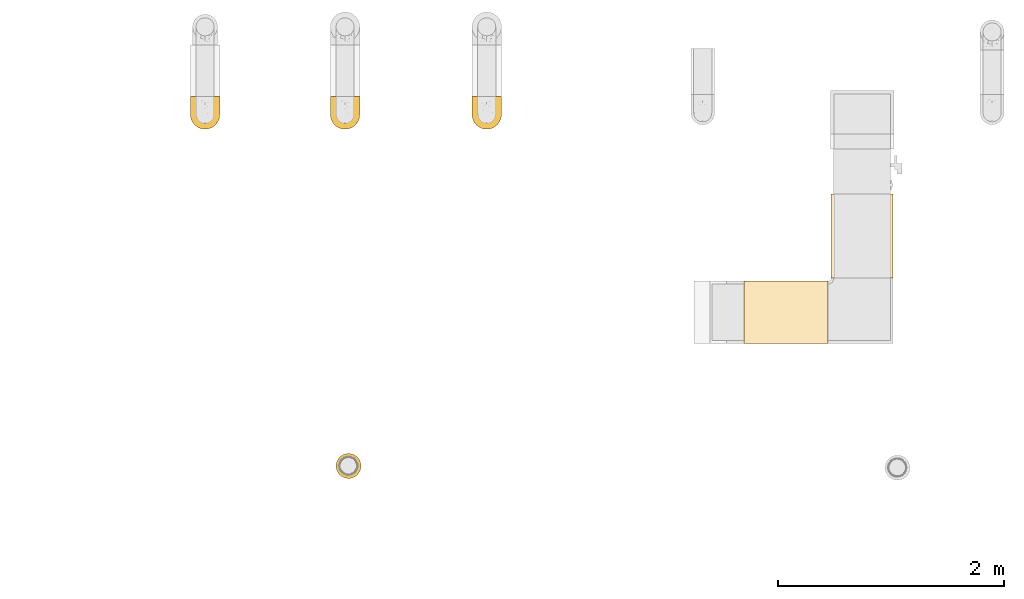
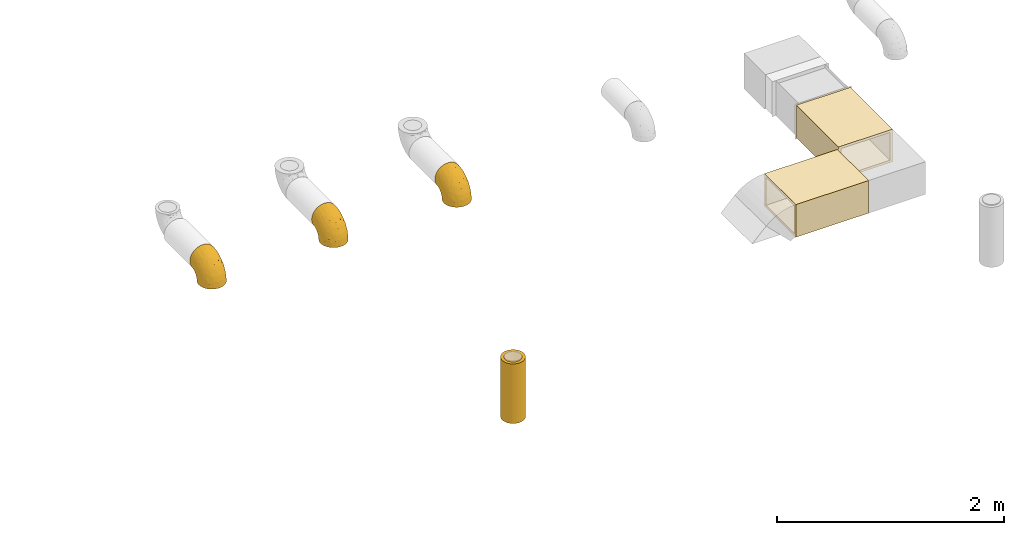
# One storey, part 1 of 14: 6 coverings.
"""IFC2X3 building model written with IfcOpenShell, lengths in millimetres."""

from ifc_helpers import new_model, entity, si_unit, converted_unit, derived_unit, direction, frame, origin_with_axes, origin_2d_with_axis, place, context, subcontext, project, spatial, hollow_rectangle, hollow_circle, extrude, open_shell, surface_model, source, transform, mapped, element, save


model = new_model("IFC2X3")

# Units and contexts
model_context = context("Model", 3, precision=0.01, world=frame((0.0, 4.29681676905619e-09, 0.0)), true_north=direction((4.01073788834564e-13, 1.0)))
plan_context = context("Plan", 3, precision=0.01, world=frame((0.0, 4.29681676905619e-09, 0.0)), true_north=direction((4.01073788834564e-13, 1.0)))
body_context = subcontext(model_context, "Body", "Model", "MODEL_VIEW")
ifc_project = project(units=[converted_unit("PLANEANGLEUNIT", "DEGREE", entity("IfcPositiveLengthMeasure", 0.0174532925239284), si_unit("PLANEANGLEUNIT", "RADIAN"), dimensions=[0, 0, 0, 0, 0, 0, 0]), si_unit("AREAUNIT", "SQUARE_METRE"), si_unit("LENGTHUNIT", "METRE", prefix="MILLI"), si_unit("MASSUNIT", "GRAM", prefix="KILO"), si_unit("POWERUNIT", "WATT"), si_unit("PRESSUREUNIT", "PASCAL", prefix="KILO"), si_unit("FORCEUNIT", "NEWTON", prefix="KILO"), si_unit("ELECTRICVOLTAGEUNIT", "VOLT"), si_unit("ELECTRICCURRENTUNIT", "AMPERE"), si_unit("THERMODYNAMICTEMPERATUREUNIT", "DEGREE_CELSIUS"), si_unit("TIMEUNIT", "SECOND"), si_unit("VOLUMEUNIT", "CUBIC_METRE"), derived_unit("LINEARVELOCITYUNIT", [(si_unit("LENGTHUNIT", "METRE"), 1), (si_unit("TIMEUNIT", "SECOND"), -1)]), derived_unit("VOLUMETRICFLOWRATEUNIT", [(si_unit("VOLUMEUNIT", "CUBIC_METRE"), 1), (si_unit("TIMEUNIT", "SECOND"), -1)]), derived_unit("THERMALTRANSMITTANCEUNIT", [(si_unit("POWERUNIT", "WATT"), 1), (si_unit("THERMODYNAMICTEMPERATUREUNIT", "KELVIN"), -1), (si_unit("AREAUNIT", "SQUARE_METRE"), -1)]), derived_unit("SOUNDPRESSUREUNIT", [(si_unit("PRESSUREUNIT", "PASCAL"), 1)])], contexts=[model_context, plan_context])

# Site, building, storey
site_placement = place(None, frame((0.0, -4.29681676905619e-09, 0.0), z_axis=(0.0, 0.0, 1.0), x_axis=(1.0, 0.0, 0.0)))
site = spatial("IfcSite", under=ifc_project, at=site_placement, CompositionType="ELEMENT")
building_placement = place(site_placement, frame((0.0, 4.29681676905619e-09, 0.0), z_axis=(0.0, 0.0, 1.0), x_axis=(1.0, 0.0, 0.0)))
building = spatial("IfcBuilding", under=site, at=building_placement, Name="mc-building", CompositionType="ELEMENT")
storey_placement = place(building_placement, frame((0.0, 0.0, 205200.0), z_axis=(0.0, 0.0, 1.0), x_axis=(1.0, 0.0, 0.0)))
storey = spatial("IfcBuildingStorey", under=building, at=storey_placement, Name="Nivå D + 1,2 m", CompositionType="ELEMENT", Elevation=205200.0)

# Coverings
shared_shape_1 = source(origin_with_axes(), body_context, "Body", "SweptSolid", [
    extrude(hollow_rectangle(XDim=550.0, YDim=350.0, WallThickness=25.0, at=origin_2d_with_axis()), frame((0.0, 0.0, 0.0), z_axis=(1.0, 0.0, 0.0), x_axis=(0.0, 1.0, 0.0)), (0.0, 0.0, 1.0), 740.3),
])
covering_1_placement = place(storey_placement, frame((346841.5, 463433.0, 4092.5), z_axis=(0.0, 0.0, 1.0), x_axis=(-1.0, 0.0, 0.0)))
element("IfcCovering", 1, at=covering_1_placement, inside=storey, Name="T=25mm", PredefinedType="INSULATION", context=body_context, shape_type="MappedRepresentation", body=[
    mapped(shared_shape_1, transform((0.0, 0.0, 0.0), scale=1.0)),
])
shared_shape_2 = source(origin_with_axes(), body_context, "Body", "SweptSolid", [
    extrude(hollow_rectangle(XDim=550.0, YDim=350.0, WallThickness=25.0, at=origin_2d_with_axis()), frame((0.0, 0.0, 0.0), z_axis=(1.0, 0.0, 0.0), x_axis=(0.0, 1.0, 0.0)), (0.0, 0.0, 1.0), 742.5),
])
covering_2_placement = place(storey_placement, frame((347143.0, 464476.99999, 4092.5), z_axis=(0.0, 0.0, 1.0), x_axis=(0.0, -1.0, 0.0)))
element("IfcCovering", 2, at=covering_2_placement, inside=storey, Name="T=25mm", PredefinedType="INSULATION", context=body_context, shape_type="MappedRepresentation", body=[
    mapped(shared_shape_2, transform((0.0, 0.0, 0.0), scale=1.0)),
])
shared_shape_3 = source(origin_with_axes(), body_context, "Body", "SurfaceModel", [
    surface_model("IfcShellBasedSurfaceModel", [(59.01724, 160.0, 115.83162), (76.41026, 160.0, 105.17353), (40.17112, 160.0, 123.6377), (20.33591, 160.0, 128.39958), (0.0, 160.0, 130.0), (91.92191, 160.0, 91.92586), (105.17026, 160.0, 76.41477), (123.636, 160.0, 40.17634), (-128.3987, 160.0, -20.3414), (115.8291, 160.0, 59.02218), (-123.6377, 160.0, 40.17112), (-130.0, 160.0, 0.0), (-40.17634, 160.0, 123.636), (-20.3414, 160.0, 128.3987), (-59.02218, 160.0, 115.8291), (-76.41477, 160.0, 105.17026), (-105.17353, 160.0, 76.41026), (-91.92586, 160.0, 91.92191), (-115.83162, 160.0, 59.01724), (-128.39958, 160.0, 20.33591), (128.3987, 160.0, 20.3414), (130.0, 160.0, 0.0), (128.39958, 160.0, -20.33591), (123.6377, 160.0, -40.17112), (115.83162, 160.0, -59.01724), (105.17353, 160.0, -76.41026), (91.92586, 160.0, -91.92191), (76.41477, 160.0, -105.17026), (59.02218, 160.0, -115.8291), (40.17634, 160.0, -123.636), (20.3414, 160.0, -128.3987), (-91.92191, 160.0, -91.92586), (-105.17026, 160.0, -76.41477), (-115.8291, 160.0, -59.02218), (-123.636, 160.0, -40.17634), (0.0, 160.0, -130.0), (-20.33591, 160.0, -128.39958), (-40.17112, 160.0, -123.6377), (-59.01724, 160.0, -115.83162), (-76.41026, 160.0, -105.17353), (-160.0, 125.57036, -33.64648), (-160.0, 125.57036, 33.64648), (-160.0, 130.0, 0.0), (-160.0, 91.92389, -91.92389), (-160.0, 112.5833, -65.0), (-160.0, -65.0, 112.5833), (-160.0, 65.0, -112.5833), (-160.0, 91.92389, 91.92389), (-160.0, 112.5833, 65.0), (-160.0, 65.0, 112.5833), (-160.0, 0.0, 130.0), (-160.0, 33.64648, 125.57036), (-160.0, 0.0, -130.0), (-160.0, 33.64648, -125.57036), (-160.0, -112.5833, -65.0), (-160.0, -33.64648, -125.57036), (-160.0, -65.0, -112.5833), (-160.0, -91.92389, -91.92389), (-160.0, -130.0, 0.0), (-160.0, -125.57036, -33.64648), (-160.0, -91.92389, 91.92389), (-160.0, -33.64648, 125.57036), (-160.0, -125.57036, 33.64648), (-160.0, -112.5833, 65.0), (-80.56859, -113.93793, 34.92222), (-103.42381, -124.42773, 0.0), (-49.0218, -107.92506, 0.0), (30.5519, 90.52532, 122.74476), (1.92649, 27.23352, 120.24946), (18.06969, 10.31659, 107.82278), (-5.45187, 118.58896, 130.0), (60.2514, -19.71714, 38.17313), (0.38415, -76.85773, 31.8021), (45.06097, -45.06097, 0.0), (1.11537, -81.12619, 0.0), (-38.91511, -97.55879, 37.0734), (47.56262, 21.39155, 94.20115), (18.09358, -17.46536, 92.42646), (95.71492, 96.52468, 78.69474), (74.36661, 45.52112, 82.05479), (91.14617, 44.6794, 57.97438), (-104.20453, -51.06398, 116.18709), (81.12619, -1.11537, 0.0), (118.65978, 86.76705, 22.01661), (-67.00054, -19.16596, 123.07457), (-117.52666, -20.23866, 127.53899), (60.55201, 65.21026, 102.42348), (-72.05195, -72.61796, 95.04919), (-122.03525, -80.26666, 99.84908), (-98.59574, -99.91118, 73.735), (69.21672, 113.88396, 107.01459), (-80.0, 21.43593, 130.0), (-118.58896, 5.45187, 130.0), (-16.10718, 45.25329, 127.75726), (-43.86731, -39.65589, 108.91558), (-21.43593, 80.0, 130.0), (-46.86291, 46.86291, 130.0), (102.80175, 45.84894, 29.86674), (114.75684, 97.16736, 45.30616), (107.92506, 49.0218, 0.0), (124.42773, 103.42381, 0.0), (58.67526, -1.90029, 65.85452), (19.79358, -50.20166, 57.47359), (-22.80235, -51.5335, 91.71715), (-33.84576, -85.97704, 57.80577), (-43.57231, -76.483, 78.54388), (-122.84247, 32.51828, 127.11974), (-148.93028, 121.67083, 49.74884), (-100.38724, 42.93862, 126.80733), (-83.08085, 59.75703, 125.57035), (-102.76006, 73.06654, 117.36095), (-123.30349, 144.34796, 49.74752), (-112.07813, 149.05553, 67.92312), (-127.25149, 152.52085, 30.34706), (-117.80872, 58.14121, 120.10434), (-88.18017, 136.49148, 98.85079), (-109.71269, 134.46857, 78.52708), (-96.64882, 124.06407, 96.44717), (-140.85509, 51.42381, 120.10434), (-36.17624, 103.62797, 127.77516), (-33.60716, 131.13233, 126.407), (-58.59313, 116.74345, 120.10277), (-56.48318, 80.56876, 126.60401), (-153.54771, 128.00772, 26.04855), (-147.1112, 130.09003, 25.71562), (-135.39813, 108.73335, 79.13898), (-128.08215, 119.51038, 71.6951), (-140.04413, 124.92474, 50.84316), (-148.44866, 104.32157, 79.13898), (-139.07163, 81.89426, 103.13593), (-116.2547, 90.19915, 104.28096), (-130.77817, 146.14604, 24.55224), (-132.77742, 149.63454, 0.0), (-131.38871, 154.81728, 0.0), (-85.71567, 89.58716, 116.51961), (-57.53496, 138.8905, 117.61255), (-134.01924, 145.0, 0.0), (-139.50962, 139.50962, 0.0), (-136.22948, 138.08336, 24.51438), (-121.78743, 129.40288, 67.59095), (-102.53761, 110.92036, 98.85079), (-133.55963, 131.68837, 46.85673), (-129.71079, 138.90674, 41.81982), (-141.0659, 133.70241, 24.88843), (-145.0, 134.01924, 0.0), (-81.61176, 111.04042, 111.05478), (-152.49999, 132.00962, 0.0), (-138.81563, 125.08003, -51.97789), (-137.31917, 107.85499, -79.13899), (-149.44384, 121.52622, -49.74885), (-127.25034, 152.52009, -30.35243), (-130.77776, 146.14585, -24.55463), (-78.42372, 53.68772, -127.37422), (-103.9756, 38.47486, -127.33605), (-96.41185, 77.13031, -117.53616), (-149.5817, 104.09847, -79.13898), (-134.74212, 140.63942, -21.70294), (-128.8988, 139.91441, -42.15093), (-132.17222, 133.92065, -45.27347), (-130.4961, 29.82337, -127.26584), (-118.58896, 5.45187, -130.0), (-153.90073, 128.24664, -24.52244), (-140.83175, 81.44377, -103.13594), (-80.0, 21.43593, -130.0), (-46.86291, 46.86291, -130.0), (-123.30205, 144.34596, -49.75263), (-127.14874, 124.71109, -66.36046), (-125.74004, 55.207, -120.10434), (-70.23437, 139.49919, -110.84426), (-114.5586, 119.08173, -84.43058), (-88.05841, 100.60304, -111.58038), (-110.88683, 99.25574, -100.96962), (-118.48442, 151.4471, -55.3831), (-101.88489, 140.97739, -84.43058), (-120.31238, 80.31896, -108.91066), (-120.52187, 133.49991, -65.22626), (-138.70887, 135.81532, -23.92906), (-87.35385, 123.11675, -103.6026), (-105.96506, 128.61253, -85.9751), (-58.58706, 116.74466, -120.10489), (-33.60151, 131.13292, -126.40829), (-36.17161, 103.62951, -127.77582), (-59.07493, 82.55747, -125.79757), (-5.45187, 118.58896, -130.0), (-21.43593, 80.0, -130.0), (-147.58241, 130.02129, -25.1132), (-125.51039, 112.08565, -81.89255), (-76.76775, -9.21803, -126.81953), (-38.63679, 20.47339, -127.58847), (-27.19988, -1.96041, -120.22991), (91.15216, 44.68818, -57.97081), (98.0984, 113.49398, -80.27422), (114.75956, 97.17171, -45.30163), (-160.0, -16.82324, -127.78518), (-114.4618, -28.53532, -125.48675), (12.67496, 73.34989, -125.69007), (10.77656, 30.86585, -118.20669), (-75.21657, -43.37087, -115.15021), (-122.03353, -80.26658, -99.84893), (-98.59494, -99.91103, -73.73492), (67.04383, 3.10858, -58.72921), (61.56116, 21.5886, -81.54865), (-80.5684, -113.93812, -34.92137), (51.77643, 111.81077, -116.74465), (42.51659, 61.72003, -112.52305), (-72.04914, -72.61722, -95.0489), (-113.64656, -61.02019, -112.10082), (-29.31416, -41.71237, -102.19767), (35.49308, -28.81692, -66.35641), (60.251, -19.71673, -38.17498), (-33.84507, -85.97776, -57.80383), (15.69599, -61.27922, -43.38087), (-24.96098, -92.95649, -28.90987), (-0.08404, -7.13085, -108.69414), (18.09601, -17.46805, -92.42289), (41.74402, 24.26728, -99.92678), (79.83278, 81.96377, -91.6378), (-14.12562, -58.28093, -79.91294), (102.8051, 45.85557, -29.8649), (118.66066, 86.76898, -22.01448), (-56.48186, -83.53017, -77.16845)], [open_shell([[[0, 1, 2]], [[3, 2, 1]], [[4, 3, 5]], [[3, 1, 5]], [[6, 7, 8]], [[6, 9, 7]], [[5, 6, 8]], [[5, 10, 4]], [[8, 11, 5]], [[12, 13, 14]], [[15, 16, 17]], [[14, 16, 15]], [[13, 4, 14]], [[16, 14, 18]], [[10, 11, 19]], [[18, 14, 4]], [[4, 10, 18]], [[5, 11, 10]], [[20, 21, 7]], [[21, 22, 23]], [[23, 24, 25]], [[21, 23, 26]], [[26, 23, 25]], [[26, 27, 28]], [[29, 8, 21]], [[21, 28, 29]], [[21, 26, 28]], [[8, 29, 30]], [[31, 32, 33]], [[8, 33, 34]], [[33, 8, 31]], [[31, 8, 35]], [[35, 36, 37]], [[31, 38, 39]], [[31, 37, 38]], [[37, 31, 35]], [[8, 30, 35]], [[21, 8, 7]], [[40, 41, 42]], [[43, 40, 44]], [[45, 43, 46]], [[41, 40, 43]], [[43, 45, 41]], [[41, 47, 48]], [[47, 41, 49]], [[49, 50, 51]], [[45, 50, 49]], [[45, 49, 41]], [[52, 46, 53]], [[54, 52, 55]], [[54, 55, 56]], [[52, 54, 45]], [[54, 56, 57]], [[58, 54, 59]], [[54, 60, 45]], [[61, 50, 45]], [[60, 62, 63]], [[62, 60, 58]], [[58, 60, 54]], [[45, 46, 52]], [[64, 65, 66]], [[65, 62, 58]], [[67, 68, 69]], [[70, 67, 3]], [[71, 72, 73]], [[64, 63, 62]], [[74, 75, 66]], [[76, 69, 77]], [[78, 79, 80]], [[72, 75, 74]], [[61, 45, 81]], [[71, 73, 82]], [[83, 20, 7]], [[81, 84, 85]], [[79, 78, 86]], [[50, 61, 85]], [[87, 88, 89]], [[90, 5, 1]], [[2, 67, 90]], [[85, 91, 92]], [[88, 45, 60]], [[93, 84, 68]], [[85, 84, 91]], [[84, 94, 68]], [[95, 96, 93]], [[93, 91, 84]], [[0, 90, 1]], [[97, 98, 80]], [[63, 89, 60]], [[97, 82, 99]], [[7, 9, 98]], [[83, 98, 97]], [[64, 89, 63]], [[98, 83, 7]], [[90, 0, 2]], [[9, 6, 98]], [[78, 90, 86]], [[100, 21, 20]], [[71, 101, 102]], [[6, 78, 98]], [[77, 94, 103]], [[93, 70, 95]], [[78, 6, 5]], [[4, 70, 3]], [[102, 72, 71]], [[70, 93, 67]], [[93, 96, 91]], [[90, 67, 86]], [[64, 104, 89]], [[2, 3, 67]], [[62, 65, 64]], [[98, 78, 80]], [[90, 78, 5]], [[81, 94, 84]], [[67, 93, 68]], [[82, 97, 71]], [[105, 89, 104]], [[80, 79, 101]], [[88, 81, 45]], [[94, 81, 87]], [[103, 94, 87]], [[94, 77, 69]], [[71, 97, 80]], [[83, 99, 100]], [[86, 76, 79]], [[80, 101, 71]], [[76, 101, 79]], [[77, 103, 102]], [[77, 102, 101]], [[72, 102, 104]], [[75, 72, 104]], [[72, 74, 73]], [[86, 67, 69]], [[101, 76, 77]], [[86, 69, 76]], [[94, 69, 68]], [[87, 105, 103]], [[103, 105, 102]], [[89, 105, 87]], [[102, 105, 104]], [[99, 83, 97]], [[20, 83, 100]], [[50, 85, 92]], [[81, 85, 61]], [[89, 88, 60]], [[81, 88, 87]], [[104, 64, 75]], [[66, 75, 64]], [[92, 106, 50]], [[48, 107, 41]], [[108, 109, 110]], [[111, 112, 113]], [[106, 108, 114]], [[115, 112, 116]], [[116, 117, 115]], [[106, 114, 118]], [[119, 120, 121]], [[122, 109, 96]], [[41, 107, 123]], [[107, 124, 123]], [[125, 126, 127]], [[128, 107, 48]], [[129, 130, 125]], [[70, 13, 120]], [[128, 48, 47]], [[129, 49, 118]], [[131, 113, 132]], [[19, 133, 113]], [[120, 119, 70]], [[127, 124, 107]], [[70, 4, 13]], [[134, 110, 109]], [[112, 16, 18]], [[135, 12, 14]], [[51, 118, 49]], [[135, 15, 115]], [[17, 115, 15]], [[135, 120, 12]], [[134, 109, 122]], [[121, 120, 135]], [[18, 10, 113]], [[136, 137, 138]], [[139, 126, 140]], [[112, 18, 113]], [[91, 96, 109]], [[111, 139, 116]], [[131, 132, 136]], [[17, 112, 115]], [[49, 129, 47]], [[19, 113, 10]], [[17, 16, 112]], [[116, 112, 111]], [[113, 131, 111]], [[120, 13, 12]], [[138, 141, 142]], [[142, 111, 131]], [[96, 95, 122]], [[143, 137, 144]], [[134, 130, 110]], [[130, 129, 114]], [[128, 129, 125]], [[111, 142, 139]], [[145, 117, 140]], [[131, 136, 138]], [[142, 141, 139]], [[126, 139, 141]], [[117, 139, 140]], [[110, 114, 108]], [[41, 123, 42]], [[126, 130, 140]], [[119, 122, 95]], [[134, 145, 140]], [[127, 126, 141]], [[126, 125, 130]], [[124, 143, 144]], [[125, 127, 107]], [[143, 127, 141]], [[146, 124, 144]], [[145, 122, 121]], [[130, 134, 140]], [[127, 143, 124]], [[143, 141, 138]], [[129, 128, 47]], [[107, 128, 125]], [[138, 142, 131]], [[143, 138, 137]], [[124, 146, 123]], [[42, 123, 146]], [[122, 119, 121]], [[70, 119, 95]], [[15, 135, 14]], [[115, 121, 135]], [[122, 145, 134]], [[115, 145, 121]], [[115, 117, 145]], [[139, 117, 116]], [[51, 50, 106]], [[129, 118, 114]], [[51, 106, 118]], [[108, 92, 91]], [[92, 108, 106]], [[91, 109, 108]], [[133, 19, 11]], [[133, 132, 113]], [[130, 114, 110]], [[147, 148, 149]], [[150, 151, 132]], [[152, 153, 154]], [[149, 148, 155]], [[156, 157, 158]], [[133, 11, 8]], [[159, 153, 160]], [[161, 42, 146]], [[46, 43, 162]], [[163, 152, 164]], [[52, 53, 159]], [[165, 157, 151]], [[147, 158, 166]], [[53, 46, 167]], [[38, 168, 39]], [[167, 153, 159]], [[169, 170, 171]], [[172, 32, 173]], [[167, 162, 174]], [[155, 43, 44]], [[8, 150, 133]], [[169, 166, 175]], [[176, 137, 156]], [[173, 168, 177]], [[172, 150, 34]], [[44, 40, 149]], [[172, 165, 150]], [[170, 178, 177]], [[177, 168, 179]], [[31, 173, 32]], [[31, 168, 173]], [[38, 180, 168]], [[179, 180, 181]], [[182, 179, 181]], [[38, 37, 180]], [[31, 39, 168]], [[168, 180, 179]], [[174, 171, 154]], [[35, 183, 36]], [[33, 172, 34]], [[136, 132, 151]], [[180, 37, 36]], [[36, 183, 180]], [[182, 184, 164]], [[181, 183, 184]], [[150, 8, 34]], [[151, 150, 165]], [[46, 162, 167]], [[146, 185, 161]], [[176, 147, 185]], [[179, 182, 170]], [[178, 169, 175]], [[152, 182, 164]], [[170, 154, 171]], [[155, 162, 43]], [[167, 174, 154]], [[176, 156, 158]], [[136, 151, 156]], [[137, 136, 156]], [[147, 149, 185]], [[144, 185, 146]], [[186, 166, 169]], [[153, 152, 163]], [[182, 152, 154]], [[160, 153, 163]], [[154, 153, 167]], [[52, 159, 160]], [[53, 167, 159]], [[147, 176, 158]], [[144, 137, 176]], [[185, 144, 176]], [[161, 149, 40]], [[183, 181, 180]], [[182, 181, 184]], [[149, 155, 44]], [[162, 155, 148]], [[32, 172, 33]], [[173, 165, 172]], [[162, 148, 174]], [[171, 186, 169]], [[186, 174, 148]], [[169, 178, 170]], [[179, 170, 177]], [[182, 154, 170]], [[174, 186, 171]], [[147, 186, 148]], [[147, 166, 186]], [[158, 157, 175]], [[158, 175, 166]], [[173, 175, 165]], [[175, 173, 178]], [[173, 177, 178]], [[149, 161, 185]], [[42, 161, 40]], [[151, 157, 156]], [[175, 157, 165]], [[150, 132, 133]], [[187, 188, 189]], [[190, 191, 192]], [[24, 191, 25]], [[193, 160, 194]], [[163, 164, 188]], [[188, 195, 196]], [[197, 187, 189]], [[163, 187, 160]], [[57, 198, 199]], [[184, 195, 188]], [[200, 201, 190]], [[195, 184, 183]], [[199, 202, 54]], [[195, 203, 204]], [[65, 58, 59]], [[194, 55, 193]], [[57, 56, 198]], [[205, 198, 206]], [[207, 205, 197]], [[208, 200, 209]], [[66, 65, 202]], [[210, 211, 212]], [[207, 213, 214]], [[66, 202, 212]], [[57, 199, 54]], [[191, 26, 25]], [[203, 29, 28]], [[203, 28, 27]], [[183, 35, 30]], [[201, 215, 216]], [[65, 59, 202]], [[30, 203, 195]], [[26, 191, 27]], [[206, 55, 194]], [[191, 216, 27]], [[211, 73, 74]], [[217, 208, 211]], [[203, 27, 216]], [[205, 207, 217]], [[209, 200, 218]], [[190, 192, 218]], [[209, 82, 73]], [[218, 82, 209]], [[204, 203, 216]], [[23, 192, 24]], [[192, 191, 24]], [[219, 22, 100]], [[204, 215, 196]], [[21, 100, 22]], [[219, 99, 218]], [[30, 195, 183]], [[216, 191, 190]], [[189, 213, 207]], [[217, 211, 210]], [[193, 52, 160]], [[29, 203, 30]], [[54, 202, 59]], [[219, 23, 22]], [[205, 220, 199]], [[202, 199, 210]], [[219, 218, 192]], [[218, 99, 82]], [[163, 188, 187]], [[188, 164, 184]], [[189, 207, 197]], [[217, 207, 214]], [[208, 217, 214]], [[217, 210, 220]], [[208, 214, 201]], [[208, 209, 211]], [[215, 201, 214]], [[190, 201, 216]], [[73, 211, 209]], [[210, 212, 202]], [[211, 74, 212]], [[66, 212, 74]], [[196, 213, 189]], [[213, 196, 215]], [[188, 196, 189]], [[195, 204, 196]], [[219, 192, 23]], [[99, 219, 100]], [[160, 187, 194]], [[187, 197, 194]], [[206, 194, 197]], [[206, 198, 56]], [[199, 198, 205]], [[55, 206, 56]], [[205, 206, 197]], [[217, 220, 205]], [[210, 199, 220]], [[201, 200, 208]], [[218, 200, 190]], [[213, 215, 214]], [[216, 215, 204]]])]),
])
for number, where, z_axis, x_axis in (
    (3, (341336.70568, 465181.0, 4052.5), (1.0, 0.0, 0.0), (0.0, -1.0, 0.0)),
    (4, (342573.81048, 465181.0, 4065.0), (1.0, 0.0, 0.0), (0.0, -1.0, 0.0)),
    (5, (343825.73195, 465181.0, 4060.0), (1.0, 0.0, 0.0), (0.0, -1.0, 0.0)),
):
    element("IfcCovering", number, at=place(storey_placement, frame(where, z_axis=z_axis, x_axis=x_axis)), inside=storey, Name="B-EI60", PredefinedType="INSULATION", context=body_context, shape_type="MappedRepresentation", body=[
        mapped(shared_shape_3, transform((0.0, 0.0, 0.0), scale=1.0)),
    ])
shared_shape_4 = source(origin_with_axes(), body_context, "Body", "SweptSolid", [
    extrude(hollow_circle(Radius=110.0, WallThickness=30.0, at=origin_2d_with_axis()), frame((0.0, 0.0, 0.0), z_axis=(1.0, 0.0, 0.0), x_axis=(0.0, 1.0, 0.0)), (0.0, 0.0, 1.0), 640.0),
])
covering_3_placement = place(storey_placement, frame((342604.29502, 462075.0, 3875.0), z_axis=(0.0, -1.0, 0.0), x_axis=(0.0, 0.0, 1.0)))
element("IfcCovering", 6, at=covering_3_placement, inside=storey, Name="B-EI60", PredefinedType="INSULATION", context=body_context, shape_type="MappedRepresentation", body=[
    mapped(shared_shape_4, transform((0.0, 0.0, 0.0), scale=1.0)),
])

save(model, "model.ifc")
